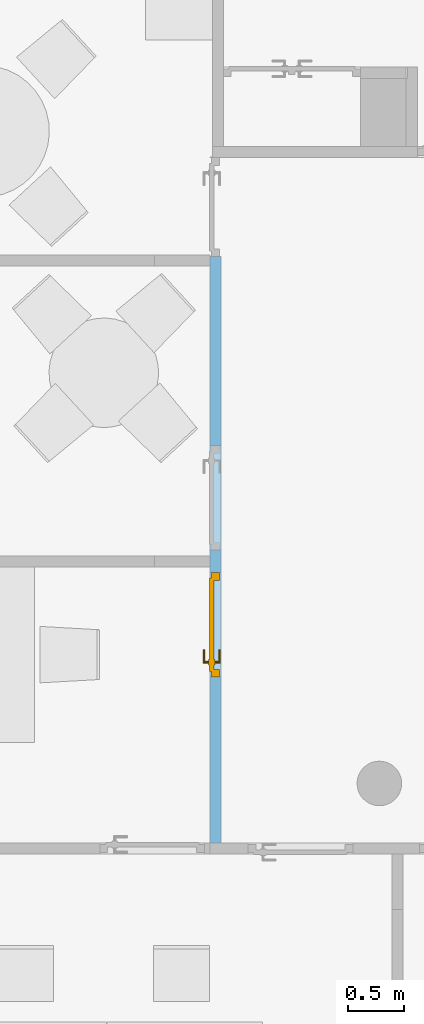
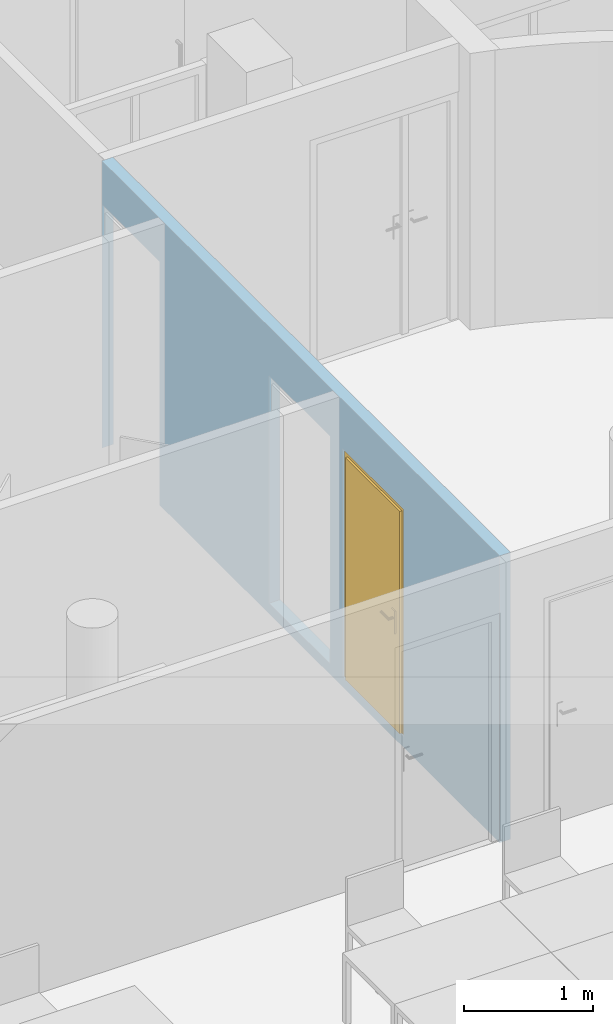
"""IFC4 building model written with IfcOpenShell, lengths in metres."""

from ifc_helpers import new_model, entity, si_unit, converted_unit, derived_unit, frame, frame_2d, origin, origin_with_axes, place, context, subcontext, project, spatial, polyline, rectangle, outline, extrude, faceted_brep, source, transform, mapped, material, layer, layer_set, layer_usage, element, fill, save


model = new_model("IFC4")

# Units and contexts
model_context = context("Model", 3, precision=1e-05, world=origin())
body_context = subcontext(model_context, "Body", "Model", "MODEL_VIEW")
ifc_project = project(units=[si_unit("LENGTHUNIT", "METRE"), si_unit("AREAUNIT", "SQUARE_METRE"), si_unit("VOLUMEUNIT", "CUBIC_METRE"), si_unit("MASSUNIT", "GRAM", prefix="KILO"), converted_unit("PLANEANGLEUNIT", "DEGREE", entity("IfcPlaneAngleMeasure", 0.0174532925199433), si_unit("PLANEANGLEUNIT", "RADIAN"), dimensions=[0, 0, 0, 0, 0, 0, 0]), derived_unit("THERMALTRANSMITTANCEUNIT", [(si_unit("POWERUNIT", "WATT"), 1), (si_unit("THERMODYNAMICTEMPERATUREUNIT", "KELVIN"), -1), (si_unit("LENGTHUNIT", "METRE"), -2)]), derived_unit("VOLUMETRICFLOWRATEUNIT", [(si_unit("LENGTHUNIT", "METRE"), 3), (converted_unit("TIMEUNIT", "hour", entity("IfcTimeMeasure", 3600.0), si_unit("TIMEUNIT", "SECOND"), dimensions=[0, 0, 1, 0, 0, 0, 0]), -1), (si_unit("LENGTHUNIT", "METRE"), -1)])], contexts=[model_context])

# Building, storeys
building_placement = place(None, origin())
building = spatial("IfcBuilding", under=ifc_project, at=building_placement, Name="HABITATGE PLURIFAMILIAR", CompositionType="ELEMENT")
storey_1_placement = place(building_placement, frame((0.0, 0.0, 12.27)))
storey_1 = spatial("IfcBuildingStorey", under=building, at=storey_1_placement, Name="PLANTA TERCERA", CompositionType="ELEMENT", Elevation=12.27)
storey_2_placement = place(storey_1_placement, frame((0.0, 0.0, 9.26)))
storey_2 = spatial("IfcBuildingStorey", under=storey_1, at=storey_2_placement, Name="NOU", CompositionType="PARTIAL")

# Wall, openings, door
ifc_material = material()
ifc_layer = layer(ifc_material, 0.1)
ifc_layer_set = layer_set([ifc_layer])
ifc_layer_usage = layer_usage(ifc_layer_set, "AXIS2", "POSITIVE", 0.0)
wall_placement = place(storey_2_placement, frame((404.316984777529, 23.4216900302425, -9.36), z_axis=(0.0, 0.0, 1.0), x_axis=(0.0, -1.0, 0.0)))
wall = element("IfcWall", 1, at=wall_placement, inside=storey_2, material=ifc_layer_usage, Name="Mampara P3", context=body_context, shape_type="SweptSolid", body=[
    extrude(rectangle(XDim=6.15544888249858, YDim=0.1, at=frame_2d((3.07772444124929, 0.05), x_axis=(1.0, 0.0))), origin_with_axes(), (0.0, 0.0, 1.0), 2.71),
])
opening_1_placement = place(wall_placement, frame((0.00523926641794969, 0.0, 0.0), z_axis=(0.0, 1.0, 0.0), x_axis=(0.0, 0.0, 1.0)))
element("IfcOpeningElement", 2, at=opening_1_placement, cuts=wall, Name="Vano porta P3", ObjectType="Opening", context=body_context, shape_type="SweptSolid", body=[
    extrude(outline(polyline([(2.3, 0.888009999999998), (2.3, 0.0), (0.0, 0.0), (0.0, 0.888009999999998), (2.3, 0.888009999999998)])), origin_with_axes(), (0.0, 0.0, 1.0), 0.1),
])
opening_2_placement = place(wall_placement, frame((2.58848843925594, 0.0, 0.1), z_axis=(0.0, 1.0, 0.0), x_axis=(0.0, 0.0, 1.0)))
element("IfcOpeningElement", 3, at=opening_2_placement, cuts=wall, Name="Vano porta P3", ObjectType="Opening", context=body_context, shape_type="SweptSolid", body=[
    extrude(outline(polyline([(2.15, 0.94), (2.15, 0.0), (0.0, 0.0), (0.0, 0.94), (2.15, 0.94)])), origin_with_axes(), (0.0, 0.0, 1.0), 0.1),
])
opening_3_placement = place(wall_placement, frame((3.72848843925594, 0.0, 0.1), z_axis=(0.0, 1.0, 0.0), x_axis=(0.0, 0.0, 1.0)))
opening_3 = element("IfcOpeningElement", 4, at=opening_3_placement, cuts=wall, Name="Vano porta P3", ObjectType="Opening", context=body_context, shape_type="SweptSolid", body=[
    extrude(outline(polyline([(2.15, 0.94), (2.15, 0.0), (0.0, 0.0), (0.0, 0.94), (2.15, 0.94)])), origin_with_axes(), (0.0, 0.0, 1.0), 0.1),
])
shared_shape = source(origin_with_axes(), body_context, "Body", "Brep", [
    faceted_brep([(0.0, 0.0700000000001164, 2.15), (0.0, 0.0700000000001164, 0.0), (0.0699999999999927, 0.0700000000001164, 0.0), (0.0699999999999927, 0.0700000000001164, 2.15), (0.0, 0.0, 0.0), (0.0, 0.0, 2.15), (0.0699999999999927, 0.0, 2.15), (0.0699999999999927, 0.0, 0.0)], [[[0, 1, 2, 3]], [[4, 5, 6, 7]], [[1, 0, 5, 4]], [[2, 1, 4, 7]], [[3, 2, 7, 6]], [[0, 3, 6, 5]]], orient=[[False], [False], [False], [False], [False], [False]]),
    faceted_brep([(0.869999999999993, 0.0700000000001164, 2.15), (0.869999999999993, 0.0700000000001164, 0.0), (0.939999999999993, 0.0700000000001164, 0.0), (0.939999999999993, 0.0700000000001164, 2.15), (0.869999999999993, 0.0, 0.0), (0.869999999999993, 0.0, 2.15), (0.939999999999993, 0.0, 2.15), (0.939999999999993, 0.0, 0.0)], [[[0, 1, 2, 3]], [[4, 5, 6, 7]], [[1, 0, 5, 4]], [[2, 1, 4, 7]], [[3, 2, 7, 6]], [[0, 3, 6, 5]]], orient=[[False], [False], [False], [False], [False], [False]]),
    faceted_brep([(0.0699999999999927, 0.0700000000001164, 2.15), (0.0699999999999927, 0.0700000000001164, 2.08), (0.869999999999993, 0.0700000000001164, 2.08), (0.869999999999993, 0.0700000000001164, 2.15), (0.0699999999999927, 0.0, 2.08), (0.0699999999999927, 0.0, 2.15), (0.869999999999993, 0.0, 2.15), (0.869999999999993, 0.0, 2.08)], [[[0, 1, 2, 3]], [[4, 5, 6, 7]], [[1, 0, 5, 4]], [[2, 1, 4, 7]], [[3, 2, 7, 6]], [[0, 3, 6, 5]]], orient=[[False], [False], [False], [False], [False], [False]]),
    faceted_brep([(0.0499999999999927, 0.0900000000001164, 2.1), (0.0499999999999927, 0.0900000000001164, 0.0), (0.889999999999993, 0.0900000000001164, 0.0), (0.889999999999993, 0.0900000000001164, 2.1), (0.0499999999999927, 0.0500000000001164, 0.0), (0.0499999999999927, 0.0500000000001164, 2.1), (0.889999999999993, 0.0500000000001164, 2.1), (0.889999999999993, 0.0500000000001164, 0.0)], [[[0, 1, 2, 3]], [[4, 5, 6, 7]], [[1, 0, 5, 4]], [[2, 1, 4, 7]], [[3, 2, 7, 6]], [[0, 3, 6, 5]]], orient=[[False], [False], [False], [False], [False], [False]]),
    faceted_brep([(0.109999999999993, 0.0500000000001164, 1.125), (0.109999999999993, 0.0500000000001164, 0.91), (0.159999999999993, 0.0500000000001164, 0.91), (0.159999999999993, 0.0500000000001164, 1.125), (0.109999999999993, 0.0400000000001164, 0.91), (0.109999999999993, 0.0400000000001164, 1.125), (0.159999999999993, 0.0400000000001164, 1.125), (0.159999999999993, 0.0400000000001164, 0.91)], [[[0, 1, 2, 3]], [[4, 5, 6, 7]], [[1, 0, 5, 4]], [[2, 1, 4, 7]], [[3, 2, 7, 6]], [[0, 3, 6, 5]]], orient=[[False], [False], [False], [False], [False], [False]]),
    faceted_brep([(0.134999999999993, 0.0400000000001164, 1.06), (0.129999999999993, 0.0400000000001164, 1.05866025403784), (0.126339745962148, 0.0400000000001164, 1.055), (0.124999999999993, 0.0400000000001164, 1.05), (0.126339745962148, 0.0400000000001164, 1.045), (0.129999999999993, 0.0400000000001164, 1.04133974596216), (0.134999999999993, 0.0400000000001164, 1.04), (0.139999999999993, 0.0400000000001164, 1.04133974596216), (0.143660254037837, 0.0400000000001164, 1.045), (0.144999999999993, 0.0400000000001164, 1.05), (0.143660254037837, 0.0400000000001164, 1.055), (0.139999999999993, 0.0400000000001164, 1.05866025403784), (0.134999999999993, 0.0, 1.06), (0.129999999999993, -0.00499999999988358, 1.05866025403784), (0.126339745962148, -0.00866025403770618, 1.055), (0.124999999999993, -0.00999999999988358, 1.05), (0.126339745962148, -0.00866025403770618, 1.045), (0.129999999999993, -0.00499999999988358, 1.04133974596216), (0.134999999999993, 0.0, 1.04), (0.139999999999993, 0.00500000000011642, 1.04133974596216), (0.143660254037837, 0.00866025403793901, 1.045), (0.144999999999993, 0.0100000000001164, 1.05), (0.143660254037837, 0.00866025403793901, 1.055), (0.139999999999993, 0.00500000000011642, 1.05866025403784), (0.249999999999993, 0.0, 1.06), (0.249999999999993, 0.00500000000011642, 1.05866025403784), (0.249999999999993, 0.00866025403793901, 1.055), (0.249999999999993, 0.0100000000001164, 1.05), (0.249999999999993, 0.00866025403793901, 1.045), (0.249999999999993, 0.00500000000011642, 1.04133974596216), (0.249999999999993, 0.0, 1.04), (0.249999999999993, -0.00499999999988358, 1.04133974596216), (0.249999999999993, -0.00866025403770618, 1.045), (0.249999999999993, -0.00999999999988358, 1.05), (0.249999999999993, -0.00866025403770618, 1.055), (0.249999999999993, -0.00499999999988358, 1.05866025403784)], [[[0, 1, 2, 3, 4, 5, 6, 7, 8, 9, 10, 11]], [[0, 12, 13, 1]], [[1, 13, 14, 2]], [[2, 14, 15, 3]], [[3, 15, 16, 4]], [[4, 16, 17, 5]], [[5, 17, 18, 6]], [[6, 18, 19, 7]], [[7, 19, 20, 8]], [[8, 20, 21, 9]], [[9, 21, 22, 10]], [[10, 22, 23, 11]], [[11, 23, 12, 0]], [[24, 25, 26, 27, 28, 29, 30, 31, 32, 33, 34, 35]], [[12, 24, 35, 13]], [[13, 35, 34, 14]], [[14, 34, 33, 15]], [[15, 33, 32, 16]], [[16, 32, 31, 17]], [[17, 31, 30, 18]], [[18, 30, 29, 19]], [[19, 29, 28, 20]], [[20, 28, 27, 21]], [[21, 27, 26, 22]], [[22, 26, 25, 23]], [[23, 25, 24, 12]]], orient=[[False], [False], [False], [False], [False], [False], [False], [False], [False], [False], [False], [False], [False], [False], [False], [False], [False], [False], [False], [False], [False], [False], [False], [False], [False], [False]]),
    faceted_brep([(0.109999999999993, 0.0900000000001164, 1.125), (0.159999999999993, 0.0900000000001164, 1.125), (0.159999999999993, 0.0900000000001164, 0.91), (0.109999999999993, 0.0900000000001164, 0.91), (0.109999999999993, 0.100000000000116, 0.91), (0.159999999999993, 0.100000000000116, 0.91), (0.159999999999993, 0.100000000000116, 1.125), (0.109999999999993, 0.100000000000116, 1.125)], [[[0, 1, 2, 3]], [[4, 5, 6, 7]], [[3, 4, 7, 0]], [[2, 5, 4, 3]], [[1, 6, 5, 2]], [[0, 7, 6, 1]]], orient=[[False], [False], [False], [False], [False], [False]]),
    faceted_brep([(0.134999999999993, 0.100000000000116, 1.06), (0.139999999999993, 0.100000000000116, 1.05866025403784), (0.143660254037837, 0.100000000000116, 1.055), (0.144999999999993, 0.100000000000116, 1.05), (0.143660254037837, 0.100000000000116, 1.045), (0.139999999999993, 0.100000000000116, 1.04133974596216), (0.134999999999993, 0.100000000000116, 1.04), (0.129999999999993, 0.100000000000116, 1.04133974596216), (0.126339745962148, 0.100000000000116, 1.045), (0.124999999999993, 0.100000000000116, 1.05), (0.126339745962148, 0.100000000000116, 1.055), (0.129999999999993, 0.100000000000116, 1.05866025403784), (0.129999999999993, 0.145000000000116, 1.05866025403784), (0.134999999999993, 0.140000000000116, 1.06), (0.126339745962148, 0.148660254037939, 1.055), (0.124999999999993, 0.150000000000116, 1.05), (0.126339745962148, 0.148660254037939, 1.045), (0.129999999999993, 0.145000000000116, 1.04133974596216), (0.134999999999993, 0.140000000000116, 1.04), (0.139999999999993, 0.135000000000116, 1.04133974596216), (0.143660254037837, 0.131339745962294, 1.045), (0.144999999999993, 0.130000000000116, 1.05), (0.143660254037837, 0.131339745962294, 1.055), (0.139999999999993, 0.135000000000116, 1.05866025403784), (0.249999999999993, 0.140000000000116, 1.06), (0.249999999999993, 0.145000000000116, 1.05866025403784), (0.249999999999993, 0.148660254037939, 1.055), (0.249999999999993, 0.150000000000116, 1.05), (0.249999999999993, 0.148660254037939, 1.045), (0.249999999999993, 0.145000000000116, 1.04133974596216), (0.249999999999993, 0.140000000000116, 1.04), (0.249999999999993, 0.135000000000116, 1.04133974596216), (0.249999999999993, 0.131339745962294, 1.045), (0.249999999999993, 0.130000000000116, 1.05), (0.249999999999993, 0.131339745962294, 1.055), (0.249999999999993, 0.135000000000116, 1.05866025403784)], [[[0, 1, 2, 3, 4, 5, 6, 7, 8, 9, 10, 11]], [[0, 11, 12, 13]], [[11, 10, 14, 12]], [[10, 9, 15, 14]], [[9, 8, 16, 15]], [[8, 7, 17, 16]], [[7, 6, 18, 17]], [[6, 5, 19, 18]], [[5, 4, 20, 19]], [[4, 3, 21, 20]], [[3, 2, 22, 21]], [[2, 1, 23, 22]], [[1, 0, 13, 23]], [[24, 25, 26, 27, 28, 29, 30, 31, 32, 33, 34, 35]], [[13, 12, 25, 24]], [[12, 14, 26, 25]], [[14, 15, 27, 26]], [[15, 16, 28, 27]], [[16, 17, 29, 28]], [[17, 18, 30, 29]], [[18, 19, 31, 30]], [[19, 20, 32, 31]], [[20, 21, 33, 32]], [[21, 22, 34, 33]], [[22, 23, 35, 34]], [[23, 13, 24, 35]]], orient=[[False], [False], [False], [False], [False], [False], [False], [False], [False], [False], [False], [False], [False], [False], [False], [False], [False], [False], [False], [False], [False], [False], [False], [False], [False], [False]]),
])
door_placement = place(opening_3_placement, frame((0.0, 0.94, 0.085), z_axis=(1.0, 0.0, 0.0), x_axis=(0.0, -1.0, 0.0)))
door = element("IfcDoor", 5, at=door_placement, inside=storey_2, Name="Porta P3", OperationType="USERDEFINED", OverallHeight=2.15, OverallWidth=0.94, PredefinedType="DOOR", context=body_context, shape_type="MappedRepresentation", body=[
    mapped(shared_shape, transform((0.0, 0.0, 0.0), x_axis=(1.0, 0.0, 0.0), y_axis=(0.0, 1.0, 0.0), z_axis=(0.0, 0.0, 1.0), scale=1.0)),
])
fill(opening_3, door)

save(model, "model.ifc")
